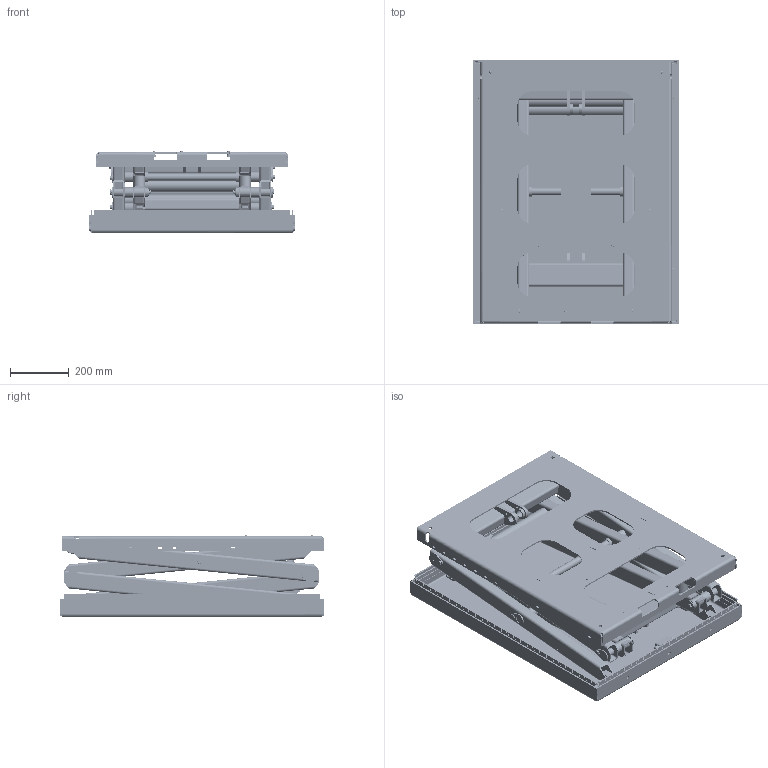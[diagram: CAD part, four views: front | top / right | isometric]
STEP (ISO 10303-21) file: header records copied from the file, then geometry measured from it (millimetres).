
FILE_DESCRIPTION(/* description */ ('Utbredning'),/* implementation_level */ '2;1');
FILE_NAME(/* name */ 'C:\Autodesk_VaultWork\Ritningar\Exporterade modeller\TRD 500 - (600330)\600330_Botten.stp',/* time_stamp */ '2015-07-03T12:22:16+02:00',/* author */ ('joaed'),/* organization */ (''),/* preprocessor_version */ 'ST-DEVELOPER v15.6',/* originating_system */ 'Autodesk Inventor 2015',/* authorisation */ '');
FILE_SCHEMA (('AUTOMOTIVE_DESIGN { 1 0 10303 214 3 1 1 }'));
Products named in the file (65): 600318; 45258; 44681; 600319; 600320; 44268; 86107-320; 600322; 600326; 45051-460; 600327; 600324; 600328; Copy of ISO 4019 - 80x40x4 - 320; 600323; 600348; 86107-45; 600325; 86107-460; 600329; 601711; 601706-545; 603456; 600336; ISO 4014 - M8 x 50BS EN; 42394; 600335; 43056-670; 43056-870; 42330; 43481; ISO 4032 - M8ISO; 33991; 44283; 44280; 44279; 44282; ISO 7089 - 5 - 140 HV(1); 84253; 44281-1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
Assembly tree (177 placements, depth 5):
  600330
    600319
      600318
      45258  x2
      44681  x2
    600322
      600320  x2
      44268  x4
      86107-320
    600328
      600326  x2
      45051-460
      600327  x2
      600324  x2
    600325
      600320  x2
      44268  x4
      Copy of ISO 4019 - 80x40x4 - 320
      600323  x2
      600324  x2
      600348  x2
      86107-45  x2
    600329
      600326  x2
      86107-460
    603456  x2
      601711
      601706-545
    600335
      600336
      45258  x2
      ISO 4014 - M8 x 50BS EN  x4
      42394  x2
    35731-900x700
      43056-670  x2
      43056-870  x2
      42330  x4
      43481  x4
      ISO 4032 - M8ISO  x4
      33990  x2
        33991
        44283
        44280
        44279
        44282
        ISO 7089 - 5 - 140 HV(1)
        84253
        44281
          44281-1
          ISO 2009 - M4 x 12ISO 7,9
        ISO 4032 - M4ISO
        83928
        44277
        44278
        33992
        ISO 7380 - M4 x 10
    601705H-125  x4
      601711
      601706-125
    85243  x6
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Bounding box: 700 x 900 x 278 mm (x, y, z)
Volume: 14767960.8 mm3; surface area: 6835739.5 mm2
Topology: 191 solids, 191 shells, 6040 faces, 15884 edges, 10409 vertices
Faces by surface type: plane 3069, cylinder 2023, bspline 518, cone 342, torus 88
Full cylindrical faces by diameter (mm): 0.474 x2, 1 x4, 3 x4, 3.141 x4, 3.2 x4, 3.242 x4, 4 x14, 4.3 x4, 4.9 x2, 5 x4, 5.2 x6, 5.3 x4, 6.647 x4, 6.8 x9, 7.4 x34, 7.6 x4, 8 x27, 8.376 x8, 8.5 x4, 9 x6, 10 x14, 10.5 x4, 11 x28, 11.5 x6, 11.63 x18, 12 x4, 13 x7, 14.63 x8, 16 x26, 17 x2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
Entity records: 88613 total; most frequent: CARTESIAN_POINT 25054, ORIENTED_EDGE 13030, DIRECTION 12491, EDGE_CURVE 6514, VERTEX_POINT 4398, AXIS2_PLACEMENT_3D 4230, LINE 4031, VECTOR 4031
